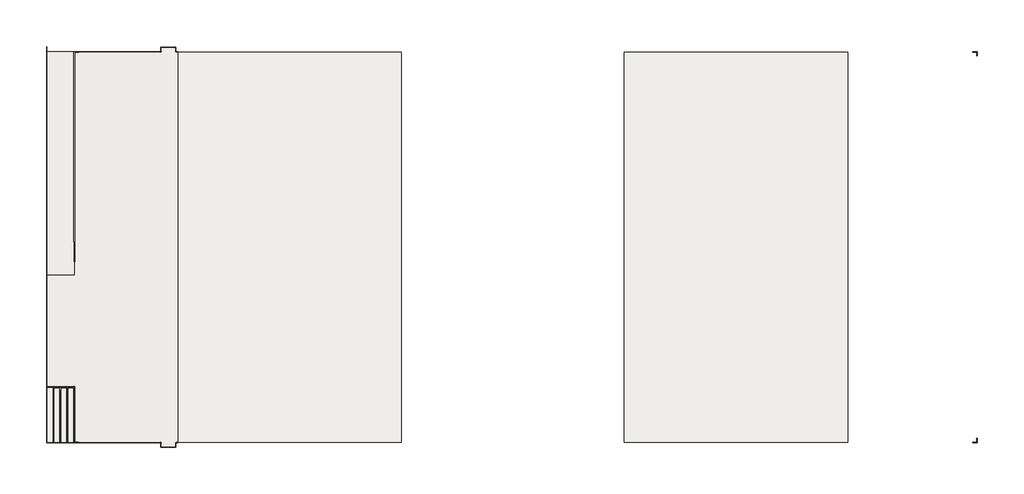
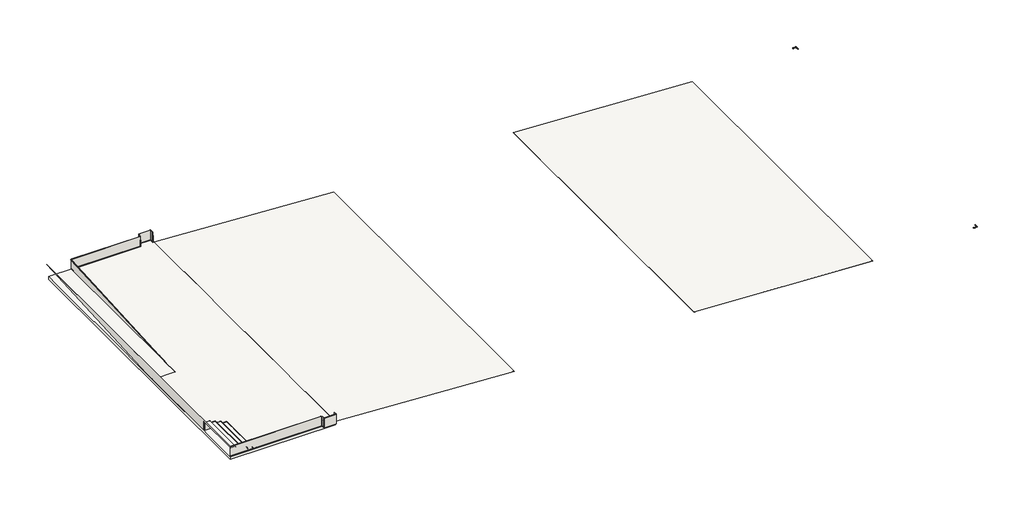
# One storey, incomplete: 41 slabs, 16 walls, 6 proxies.
"""IFC4 building model written with IfcOpenShell, lengths in millimetres."""

from ifc_helpers import new_model, si_unit, frame, origin, place, context, project, spatial, polyline, outline, extrude, faceted_brep, transform, mapped, element, save
from components import generic_models_2f38e3b8, pieza_116_aqua_blanco_liso_e3a47a5f, pieza_116_aqua_blanco_liso_e9a23e22, slab_34b9a9c7, slab_35f00dca, slab_c012ca34, slab_127b54b0, slab_4b7f66d5, slab_a917c221, slab_8c1f2233, slab_389d30d9, pieza_112_aqua_blanco_liso_81c370b3, pieza_112_aqua_blanco_liso_8ca1fe8c, pieza_112_aqua_blanco_liso_23b11aa6, pieza_112_aqua_blanco_liso_01280c05, pieza_112_aqua_blanco_liso_dc4f69db, pieza_112_aqua_blanco_liso_d6423cb9, pieza_112_aqua_blanco_liso_26c74400, pieza_138_aqua_blanco_liso_9b706f35, pieza_138_aqua_blanco_liso_c4eb7b49, pieza_138_aqua_blanco_liso_e20dc912

model = new_model("IFC4")

# Units and contexts
model_context = context("Model", 3, world=origin())
ifc_project = project(units=[si_unit("LENGTHUNIT", "METRE", prefix="MILLI")], contexts=[model_context])

# Site, building, storey
site = spatial("IfcSite", under=ifc_project)
building = spatial("IfcBuilding", under=site)
storey = spatial("IfcBuildingStorey", under=building, Name="3_NFondo1PN -0.75", Elevation=-750.0)

# Proxies
placement = place(None, origin())
generic_models_shape = generic_models_2f38e3b8(model_context)
element("IfcBuildingElementProxy", 1, Name="ROSA GRES_115 : Pieza 115_Aqua_Marino_Anti-Slip", ObjectType="ROSA GRES_115 : Pieza 115_Aqua_Marino_Anti-Slip", at=placement, inside=storey, context=model_context, shape_type="MappedRepresentation", body=[
    mapped(generic_models_shape, transform((-21818.2348833, 32923.3948726, -190.0), x_axis=(0.0, 1.0, 0.0), y_axis=(-1.0, 0.0, 0.0), z_axis=(0.0, 0.0, 1.0))),
])
pieza_116_aqua_blanco_liso_shape = pieza_116_aqua_blanco_liso_e3a47a5f(model_context)
element("IfcBuildingElementProxy", 2, Name="ROSA GRES_116 : Pieza 116_Aqua_Blanco_Liso", ObjectType="ROSA GRES_116 : Pieza 116_Aqua_Blanco_Liso", at=placement, inside=storey, context=model_context, shape_type="MappedRepresentation", body=[
    mapped(pieza_116_aqua_blanco_liso_shape, transform((-16057.0437174, 29923.3948726, -760.0), x_axis=(1.0, 0.0, 0.0), y_axis=(0.0, 1.0, 0.0), z_axis=(0.0, 0.0, 1.0))),
])
element("IfcBuildingElementProxy", 3, Name="ROSA GRES_116 : Pieza 116_Aqua_Blanco_Liso", ObjectType="ROSA GRES_116 : Pieza 116_Aqua_Blanco_Liso", at=placement, inside=storey, context=model_context, shape_type="MappedRepresentation", body=[
    mapped(pieza_116_aqua_blanco_liso_shape, transform((-15177.0968945, 29923.3948726, -760.0), x_axis=(0.0, 1.0, 0.0), y_axis=(-1.0, 0.0, 0.0), z_axis=(0.0, 0.0, 1.0))),
])
pieza_116_aqua_blanco_liso_2_shape = pieza_116_aqua_blanco_liso_e9a23e22(model_context)
element("IfcBuildingElementProxy", 4, Name="ROSA GRES_116 : Pieza 116_Aqua_Blanco_Liso", ObjectType="ROSA GRES_116 : Pieza 116_Aqua_Blanco_Liso", at=placement, inside=storey, context=model_context, shape_type="MappedRepresentation", body=[
    mapped(pieza_116_aqua_blanco_liso_2_shape, transform((-16057.0437174, 51003.3416955, -760.0), x_axis=(1.0, 0.0, 0.0), y_axis=(0.0, 1.0, 0.0), z_axis=(0.0, 0.0, 1.0))),
])
element("IfcBuildingElementProxy", 5, Name="ROSA GRES_116 : Pieza 116_Aqua_Blanco_Liso", ObjectType="ROSA GRES_116 : Pieza 116_Aqua_Blanco_Liso", at=placement, inside=storey, context=model_context, shape_type="MappedRepresentation", body=[
    mapped(pieza_116_aqua_blanco_liso_2_shape, transform((-15177.0968945, 51003.3416955, -760.0), x_axis=(0.0, -1.0, 0.0), y_axis=(1.0, 0.0, 0.0), z_axis=(0.0, 0.0, 1.0))),
])
element("IfcBuildingElementProxy", 6, Name="ROSA GRES_116 : Pieza 116_Aqua_Blanco_Liso", ObjectType="ROSA GRES_116 : Pieza 116_Aqua_Blanco_Liso", at=placement, inside=storey, context=model_context, shape_type="MappedRepresentation", body=[
    mapped(pieza_116_aqua_blanco_liso_2_shape, transform((-20693.2082947, 32923.3948726, -760.0), x_axis=(0.0, 1.0, 0.0), y_axis=(-1.0, 0.0, 0.0), z_axis=(0.0, 0.0, 1.0))),
])

# Slabs
element("IfcSlab", 7, ObjectType="GENÉRICO_LOSA 20 cm", at=placement, inside=storey, context=model_context, shape_type="SweptSolid", body=[
    extrude(outline(polyline([(-22162.2348833, 29954.368284), (-22162.2348833, 50972.368284), (-15117.0703062, 50972.368284), (-15117.0703062, 29954.368284), (-22162.2348833, 29954.368284)])), frame((0.0, 0.0, -960.0), z_axis=(0.0, 0.0, 1.0), x_axis=(1.0, 0.0, 0.0)), (0.0, 0.0, 1.0), 200.0),
])
element("IfcSlab", 8, ObjectType="Pieza 244 G1_Patrón Recto_Aqua_Blanco_Anti-Slip", at=placement, inside=storey, context=model_context, shape_type="SweptSolid", body=[
    extrude(outline(polyline([(-20693.2348833, 32923.3948726), (-20693.2348833, 29963.368284), (-20998.2348833, 29963.368284), (-20998.2348833, 32923.3948726), (-20693.2348833, 32923.3948726)])), frame((0.0, 0.0, -609.0), z_axis=(0.0, 0.0, 1.0), x_axis=(1.0, 0.0, 0.0)), (0.0, 0.0, 1.0), 9.0),
])
element("IfcSlab", 9, ObjectType="Pieza 244 G1_Patrón Recto_Aqua_Blanco_Anti-Slip", at=placement, inside=storey, context=model_context, shape_type="SweptSolid", body=[
    extrude(outline(polyline([(-21068.2348833, 32923.3948726), (-21068.2348833, 29963.368284), (-21373.2348833, 29963.368284), (-21373.2348833, 32923.3948726), (-21068.2348833, 32923.3948726)])), frame((0.0, 0.0, -459.0), z_axis=(0.0, 0.0, 1.0), x_axis=(1.0, 0.0, 0.0)), (0.0, 0.0, 1.0), 9.0),
])
element("IfcSlab", 10, ObjectType="Pieza 244 G1_Patrón Recto_Aqua_Blanco_Anti-Slip", at=placement, inside=storey, context=model_context, shape_type="SweptSolid", body=[
    extrude(outline(polyline([(-21443.2348833, 32923.3948726), (-21443.2348833, 29963.368284), (-21748.2348833, 29963.368284), (-21748.2348833, 32923.3948726), (-21443.2348833, 32923.3948726)])), frame((0.0, 0.0, -309.0), z_axis=(0.0, 0.0, 1.0), x_axis=(1.0, 0.0, 0.0)), (0.0, 0.0, 1.0), 9.0),
])
element("IfcSlab", 11, ObjectType="Pieza 244 G1_Patrón Recto_Aqua_Blanco_Anti-Slip", at=placement, inside=storey, context=model_context, shape_type="SweptSolid", body=[
    extrude(outline(polyline([(-21818.2348833, 32923.3948726), (-21818.2348833, 29963.368284), (-22123.2348833, 29963.368284), (-22123.2348833, 32923.3948726), (-21818.2348833, 32923.3948726)])), frame((0.0, 0.0, -159.0), z_axis=(0.0, 0.0, 1.0), x_axis=(1.0, 0.0, 0.0)), (0.0, 0.0, 1.0), 9.0),
])
element("IfcSlab", 12, ObjectType="Pieza 244 G1_Patrón Recto_Aqua_Blanco_Anti-Slip", at=placement, inside=storey, context=model_context, shape_type="SweptSolid", body=[
    extrude(outline(polyline([(-22123.2082947, 38963.368284), (-20653.2348833, 38963.368284), (-20653.2348833, 40201.8416955), (-20623.2082947, 40201.8416955), (-20623.2082947, 50933.3416955), (-15987.0437174, 50933.3416955), (-15987.0437174, 51177.1853154), (-15247.0968945, 51177.1853154), (-15247.0968945, 50933.3416955), (-15117.0703062, 50933.3416955), (-15117.0703062, 29993.3948726), (-15247.0968945, 29993.3948726), (-15247.0968945, 29749.5586456), (-15987.0437174, 29749.5586456), (-15987.0437174, 29993.3948726), (-20623.2082947, 29993.3948726), (-20623.2082947, 32993.3948726), (-22123.2082947, 32993.3948726), (-22123.2082947, 38963.368284)])), frame((0.0, 0.0, -759.0), z_axis=(0.0, 0.0, 1.0), x_axis=(1.0, 0.0, 0.0)), (0.0, 0.0, 1.0), 9.0),
])
element("IfcSlab", 13, ObjectType="Pieza 244 G1_Patrón Recto_Aqua_Blanco_Anti-Slip", at=placement, inside=storey, context=model_context, shape_type="SweptSolid", body=[
    extrude(outline(polyline([(-759.0131923, -15117.0703062), (-1409.0131923, -3116.5620418), (-1400.0, -3116.5620418), (-750.0, -15117.0703062), (-759.0131923, -15117.0703062)])), frame((0.0, 29993.3948726, 0.0), z_axis=(0.0, 1.0, 0.0), x_axis=(0.0, 0.0, 1.0)), (0.0, 0.0, 1.0), 20939.9468229),
])
element("IfcSlab", 14, ObjectType="Pieza 244 G1_Patrón Recto_Aqua_Blanco_Anti-Slip", at=placement, inside=storey, context=model_context, shape_type="SweptSolid", body=[
    extrude(outline(polyline([(-1409.011243, 8882.8865549), (-2009.011243, 20882.8636311), (-2000.0, 20882.8636311), (-1400.0, 8882.8865549), (-1409.011243, 8882.8865549)])), frame((0.0, 29993.3948726, 0.0), z_axis=(0.0, 1.0, 0.0), x_axis=(0.0, 0.0, 1.0)), (0.0, 0.0, 1.0), 20939.9468229),
])
slab_shape = slab_34b9a9c7(model_context)
element("IfcSlab", 15, ObjectType="ROSA GRES_138 : Pieza 138_Aqua_Marino_Anti-Slip", at=placement, inside=storey, context=model_context, shape_type="MappedRepresentation", body=[
    mapped(slab_shape, transform((-20693.2348833, 40762.0006856, -688.141668), x_axis=(0.0, 0.9983983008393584, 0.05657590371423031), y_axis=(-1.0, 0.0, 0.0), z_axis=(0.0, -0.056575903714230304, 0.9983983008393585))),
])
slab_2_shape = slab_35f00dca(model_context)
element("IfcSlab", 16, ObjectType="ROSA GRES_138 : Pieza 138_Aqua_Marino_Anti-Slip", at=placement, inside=storey, context=model_context, shape_type="MappedRepresentation", body=[
    mapped(slab_2_shape, transform((-21443.2348833, 32923.3948726, -340.0), x_axis=(-1.0, 0.0, 0.0), y_axis=(0.0, 0.0, 1.0), z_axis=(0.0, 1.0, 0.0))),
])
slab_3_shape = slab_c012ca34(model_context)
element("IfcSlab", 17, ObjectType="ROSA GRES_138 : Pieza 138_Aqua_Marino_Liso", at=placement, inside=storey, context=model_context, shape_type="MappedRepresentation", body=[
    mapped(slab_3_shape, transform((-20693.2348833, 32923.3948726, -720.0), x_axis=(0.0, 0.0, 1.0), y_axis=(0.0, -1.0, 0.0), z_axis=(1.0, 0.0, 0.0))),
])
element("IfcSlab", 18, ObjectType="ROSA GRES_138 : Pieza 138_Aqua_Marino_Liso", at=placement, inside=storey, context=model_context, shape_type="MappedRepresentation", body=[
    mapped(slab_3_shape, transform((-21068.2348833, 32923.3948726, -570.0), x_axis=(0.0, 0.0, 1.0), y_axis=(0.0, -1.0, 0.0), z_axis=(1.0, 0.0, 0.0))),
])
element("IfcSlab", 19, ObjectType="ROSA GRES_138 : Pieza 138_Aqua_Marino_Liso", at=placement, inside=storey, context=model_context, shape_type="MappedRepresentation", body=[
    mapped(slab_3_shape, transform((-21443.2348833, 32923.3948726, -420.0), x_axis=(0.0, 0.0, 1.0), y_axis=(0.0, -1.0, 0.0), z_axis=(1.0, 0.0, 0.0))),
])
element("IfcSlab", 20, ObjectType="ROSA GRES_138 : Pieza 138_Aqua_Marino_Liso", at=placement, inside=storey, context=model_context, shape_type="MappedRepresentation", body=[
    mapped(slab_3_shape, transform((-21818.2348833, 32923.3948726, -270.0), x_axis=(0.0, 0.0, 1.0), y_axis=(0.0, -1.0, 0.0), z_axis=(1.0, 0.0, 0.0))),
])
slab_4_shape = slab_127b54b0(model_context)
element("IfcSlab", 21, ObjectType="ROSA GRES_138 : Pieza 138_Aqua_Marino_Anti-Slip", at=placement, inside=storey, context=model_context, shape_type="MappedRepresentation", body=[
    mapped(slab_4_shape, transform((-20693.2348833, 32923.3948726, -640.0), x_axis=(-1.0, 0.0, 0.0), y_axis=(0.0, -1.0, 0.0), z_axis=(0.0, 0.0, 1.0))),
])
element("IfcSlab", 22, ObjectType="ROSA GRES_138 : Pieza 138_Aqua_Marino_Anti-Slip", at=placement, inside=storey, context=model_context, shape_type="MappedRepresentation", body=[
    mapped(slab_4_shape, transform((-21068.2348833, 32923.3948726, -490.0), x_axis=(-1.0, 0.0, 0.0), y_axis=(0.0, -1.0, 0.0), z_axis=(0.0, 0.0, 1.0))),
])
slab_5_shape = slab_4b7f66d5(model_context)
element("IfcSlab", 23, ObjectType="ROSA GRES_138 : Pieza 138_Aqua_Marino_Anti-Slip", at=placement, inside=storey, context=model_context, shape_type="MappedRepresentation", body=[
    mapped(slab_5_shape, transform((-20693.2348833, 32743.368284, -640.0), x_axis=(0.0, -1.0, 0.0), y_axis=(0.0, 0.0, -1.0), z_axis=(1.0, 0.0, 0.0))),
])
element("IfcSlab", 24, ObjectType="ROSA GRES_138 : Pieza 138_Aqua_Marino_Anti-Slip", at=placement, inside=storey, context=model_context, shape_type="MappedRepresentation", body=[
    mapped(slab_5_shape, transform((-21068.2348833, 32743.368284, -490.0), x_axis=(0.0, -1.0, 0.0), y_axis=(0.0, 0.0, -1.0), z_axis=(1.0, 0.0, 0.0))),
])
slab_6_shape = slab_a917c221(model_context)
element("IfcSlab", 25, ObjectType="ROSA GRES_138 : Pieza 138_Aqua_Marino_Anti-Slip", at=placement, inside=storey, context=model_context, shape_type="MappedRepresentation", body=[
    mapped(slab_6_shape, transform((-21443.2348833, 32743.3948726, -340.0), x_axis=(0.0, -1.0, 0.0), y_axis=(0.0, 0.0, -1.0), z_axis=(1.0, 0.0, 0.0))),
])
slab_7_shape = slab_8c1f2233(model_context)
element("IfcSlab", 26, ObjectType="ROSA GRES_138 : Pieza 138_Aqua_Marino_Anti-Slip", at=placement, inside=storey, context=model_context, shape_type="MappedRepresentation", body=[
    mapped(slab_7_shape, transform((-21068.2348833, 32743.368284, -490.0), x_axis=(0.0, 1.0, 0.0), y_axis=(-1.0, 0.0, 0.0), z_axis=(0.0, 0.0, 1.0))),
])
element("IfcSlab", 27, ObjectType="ROSA GRES_138 : Pieza 138_Aqua_Marino_Anti-Slip", at=placement, inside=storey, context=model_context, shape_type="MappedRepresentation", body=[
    mapped(slab_7_shape, transform((-20693.2348833, 32743.3948726, -640.0), x_axis=(0.0, 1.0, 0.0), y_axis=(-1.0, 0.0, 0.0), z_axis=(0.0, 0.0, 1.0))),
])
slab_8_shape = slab_389d30d9(model_context)
element("IfcSlab", 28, ObjectType="ROSA GRES_138 : Pieza 138_Aqua_Marino_Anti-Slip", at=placement, inside=storey, context=model_context, shape_type="MappedRepresentation", body=[
    mapped(slab_8_shape, transform((-21443.2348833, 32743.3948726, -340.0), x_axis=(0.0, 1.0, 0.0), y_axis=(0.0, 0.0, 1.0), z_axis=(1.0, 0.0, 0.0))),
])
pieza_112_aqua_blanco_liso_shape = pieza_112_aqua_blanco_liso_81c370b3(model_context)
element("IfcSlab", 29, ObjectType="ROSA GRES_112 (corte) : Pieza 112_Aqua_Blanco_Liso", at=placement, inside=storey, context=model_context, shape_type="MappedRepresentation", body=[
    mapped(pieza_112_aqua_blanco_liso_shape, transform((-20419.7082947, 50973.3416955, -760.0), x_axis=(-1.0, 0.0, 0.0), y_axis=(0.0, -1.0, 0.0), z_axis=(0.0, 0.0, 1.0))),
])
element("IfcSlab", 30, ObjectType="ROSA GRES_112 (corte) : Pieza 112_Aqua_Blanco_Liso", at=placement, inside=storey, context=model_context, shape_type="MappedRepresentation", body=[
    mapped(pieza_112_aqua_blanco_liso_shape, transform((-20663.2082947, 30196.8948726, -760.0), x_axis=(0.0, -1.0, 0.0), y_axis=(1.0, 0.0, 0.0), z_axis=(0.0, 0.0, 1.0))),
])
element("IfcSlab", 31, ObjectType="ROSA GRES_112 (corte) : Pieza 112_Aqua_Blanco_Liso", at=placement, inside=storey, context=model_context, shape_type="MappedRepresentation", body=[
    mapped(pieza_112_aqua_blanco_liso_shape, transform((27613.2385282, 29953.3948726, -2010.0), x_axis=(1.0, 0.0, 0.0), y_axis=(0.0, 1.0, 0.0), z_axis=(0.0, 0.0, 1.0))),
])
pieza_112_aqua_blanco_liso_2_shape = pieza_112_aqua_blanco_liso_8ca1fe8c(model_context)
element("IfcSlab", 32, ObjectType="ROSA GRES_112 (corte) : Pieza 112_Aqua_Blanco_Liso", at=placement, inside=storey, context=model_context, shape_type="MappedRepresentation", body=[
    mapped(pieza_112_aqua_blanco_liso_2_shape, transform((-20419.7082947, 29953.3948726, -760.0), x_axis=(-1.0, 0.0, 0.0), y_axis=(0.0, -1.0, 0.0), z_axis=(0.0, 0.0, 1.0))),
])
element("IfcSlab", 33, ObjectType="ROSA GRES_112 (corte) : Pieza 112_Aqua_Blanco_Liso", at=placement, inside=storey, context=model_context, shape_type="MappedRepresentation", body=[
    mapped(pieza_112_aqua_blanco_liso_2_shape, transform((27856.7385282, 30196.8948726, -2010.0), x_axis=(0.0, -1.0, 0.0), y_axis=(1.0, 0.0, 0.0), z_axis=(0.0, 0.0, 1.0))),
])
element("IfcSlab", 34, ObjectType="ROSA GRES_112 (corte) : Pieza 112_Aqua_Blanco_Liso", at=placement, inside=storey, context=model_context, shape_type="MappedRepresentation", body=[
    mapped(pieza_112_aqua_blanco_liso_2_shape, transform((27613.2385282, 50973.3416955, -2010.0), x_axis=(1.0, 0.0, 0.0), y_axis=(0.0, 1.0, 0.0), z_axis=(0.0, 0.0, 1.0))),
])
pieza_112_aqua_blanco_liso_3_shape = pieza_112_aqua_blanco_liso_23b11aa6(model_context)
element("IfcSlab", 35, ObjectType="ROSA GRES_112 (corte) : Pieza 112_Aqua_Blanco_Liso", at=placement, inside=storey, context=model_context, shape_type="MappedRepresentation", body=[
    mapped(pieza_112_aqua_blanco_liso_3_shape, transform((-20663.2082947, 50743.3948726, -760.0), x_axis=(0.0, 1.0, 0.0), y_axis=(-1.0, 0.0, 0.0), z_axis=(0.0, 0.0, 1.0))),
])
pieza_112_aqua_blanco_liso_4_shape = pieza_112_aqua_blanco_liso_01280c05(model_context)
element("IfcSlab", 36, ObjectType="ROSA GRES_112 (corte) : Pieza 112_Aqua_Blanco_Liso", at=placement, inside=storey, context=model_context, shape_type="MappedRepresentation", body=[
    mapped(pieza_112_aqua_blanco_liso_4_shape, transform((27856.7385282, 50743.3948726, -2010.0), x_axis=(0.0, 1.0, 0.0), y_axis=(-1.0, 0.0, 0.0), z_axis=(0.0, 0.0, 1.0))),
])
pieza_112_aqua_blanco_liso_5_shape = pieza_112_aqua_blanco_liso_dc4f69db(model_context)
element("IfcSlab", 37, ObjectType="ROSA GRES_112 : Pieza 112_Aqua_Blanco_Liso", at=placement, inside=storey, context=model_context, shape_type="MappedRepresentation", body=[
    mapped(pieza_112_aqua_blanco_liso_5_shape, transform((-21028.2614718, 32743.368284, -610.0), x_axis=(0.0, -1.0, 0.0), y_axis=(1.0, 0.0, 0.0), z_axis=(0.0, 0.0, 1.0))),
])
element("IfcSlab", 38, ObjectType="ROSA GRES_112 : Pieza 112_Aqua_Blanco_Liso", at=placement, inside=storey, context=model_context, shape_type="MappedRepresentation", body=[
    mapped(pieza_112_aqua_blanco_liso_5_shape, transform((-21403.2614718, 32743.368284, -460.0), x_axis=(0.0, -1.0, 0.0), y_axis=(1.0, 0.0, 0.0), z_axis=(0.0, 0.0, 1.0))),
])
element("IfcSlab", 39, ObjectType="ROSA GRES_112 : Pieza 112_Aqua_Blanco_Liso", at=placement, inside=storey, context=model_context, shape_type="MappedRepresentation", body=[
    mapped(pieza_112_aqua_blanco_liso_5_shape, transform((-21778.2614718, 32743.368284, -310.0), x_axis=(0.0, -1.0, 0.0), y_axis=(1.0, 0.0, 0.0), z_axis=(0.0, 0.0, 1.0))),
])
pieza_112_aqua_blanco_liso_6_shape = pieza_112_aqua_blanco_liso_d6423cb9(model_context)
element("IfcSlab", 40, ObjectType="ROSA GRES_112 : Pieza 112_Aqua_Blanco_Liso", at=placement, inside=storey, context=model_context, shape_type="MappedRepresentation", body=[
    mapped(pieza_112_aqua_blanco_liso_6_shape, transform((-22153.2614718, 32953.3948726, -720.0), x_axis=(0.0, 0.0, 1.0), y_axis=(1.0, 0.0, 0.0), z_axis=(0.0, 1.0, 0.0))),
])
pieza_112_aqua_blanco_liso_7_shape = pieza_112_aqua_blanco_liso_26c74400(model_context)
element("IfcSlab", 41, ObjectType="ROSA GRES_112 : Pieza 112_Aqua_Blanco_Liso", at=placement, inside=storey, context=model_context, shape_type="MappedRepresentation", body=[
    mapped(pieza_112_aqua_blanco_liso_7_shape, transform((-21778.2348833, 32923.3948726, -310.0), x_axis=(0.0, -1.0, 0.0), y_axis=(1.0, 0.0, 0.0), z_axis=(0.0, 0.0, 1.0))),
])
element("IfcSlab", 42, ObjectType="ROSA GRES_112 : Pieza 112_Aqua_Blanco_Liso", at=placement, inside=storey, context=model_context, shape_type="MappedRepresentation", body=[
    mapped(pieza_112_aqua_blanco_liso_7_shape, transform((-21403.2348833, 32923.3948726, -460.0), x_axis=(0.0, -1.0, 0.0), y_axis=(1.0, 0.0, 0.0), z_axis=(0.0, 0.0, 1.0))),
])
element("IfcSlab", 43, ObjectType="ROSA GRES_112 : Pieza 112_Aqua_Blanco_Liso", at=placement, inside=storey, context=model_context, shape_type="MappedRepresentation", body=[
    mapped(pieza_112_aqua_blanco_liso_7_shape, transform((-21028.2614718, 32923.368284, -610.0), x_axis=(0.0, -1.0, 0.0), y_axis=(1.0, 0.0, 0.0), z_axis=(0.0, 0.0, 1.0))),
])
pieza_138_aqua_blanco_liso_shape = pieza_138_aqua_blanco_liso_9b706f35(model_context)
element("IfcSlab", 44, ObjectType="ROSA GRES_138 : Pieza 138_Aqua_Blanco_Liso", at=placement, inside=storey, context=model_context, shape_type="MappedRepresentation", body=[
    mapped(pieza_138_aqua_blanco_liso_shape, transform((-16057.070306, 51003.368284, -304.0), x_axis=(0.0, 0.0, -1.0), y_axis=(0.0, 1.0, 0.0), z_axis=(1.0, 0.0, 0.0))),
])
element("IfcSlab", 45, ObjectType="ROSA GRES_138 : Pieza 138_Aqua_Blanco_Liso", at=placement, inside=storey, context=model_context, shape_type="MappedRepresentation", body=[
    mapped(pieza_138_aqua_blanco_liso_shape, transform((-15177.070306, 29923.368284, -304.0), x_axis=(0.0, 0.0, -1.0), y_axis=(0.0, -1.0, 0.0), z_axis=(-1.0, 0.0, 0.0))),
])
pieza_138_aqua_blanco_liso_2_shape = pieza_138_aqua_blanco_liso_c4eb7b49(model_context)
element("IfcSlab", 46, ObjectType="ROSA GRES_138 : Pieza 138_Aqua_Blanco_Liso", at=placement, inside=storey, context=model_context, shape_type="MappedRepresentation", body=[
    mapped(pieza_138_aqua_blanco_liso_2_shape, transform((-15177.070306, 51003.368284, -303.6037579), x_axis=(0.0, 0.0, -1.0), y_axis=(0.0, -1.0, 0.0), z_axis=(-1.0, 0.0, 0.0))),
])
pieza_138_aqua_blanco_liso_3_shape = pieza_138_aqua_blanco_liso_e20dc912(model_context)
element("IfcSlab", 47, ObjectType="ROSA GRES_138 : Pieza 138_Aqua_Blanco_Liso", at=placement, inside=storey, context=model_context, shape_type="MappedRepresentation", body=[
    mapped(pieza_138_aqua_blanco_liso_3_shape, transform((-16057.1799991, 29923.368284, -304.2531946), x_axis=(0.0, 0.0, -1.0), y_axis=(-1.0, 0.0, 0.0), z_axis=(0.0, 1.0, 0.0))),
])

# Walls
element("IfcWall", 48, ObjectType="Pieza 244 G1_Patrón Recto_Aqua_Blanco_Liso", at=placement, inside=storey, context=model_context, shape_type="SweptSolid", body=[
    extrude(outline(polyline([(-16057.1799991, 50963.368284), (-20653.2348833, 50963.368284), (-20653.2348833, 50972.368284), (-16057.1799991, 50972.368284), (-16057.1799991, 50963.368284)])), frame((0.0, 0.0, -720.0), z_axis=(0.0, 0.0, 1.0), x_axis=(1.0, 0.0, 0.0)), (0.0, 0.0, 1.0), 666.0),
])
element("IfcWall", 49, ObjectType="Pieza 244 G1_Patrón Recto_Aqua_Blanco_Liso", at=placement, inside=storey, context=model_context, shape_type="SweptSolid", body=[
    extrude(outline(polyline([(32993.3948726, -720.0), (32993.3948726, -120.0), (29963.368284, -120.0), (29963.368284, -54.0), (51245.7212252, -54.0), (38963.3948726, -749.9984933), (38963.3948726, -720.0), (32993.3948726, -720.0)])), frame((-22162.2348833, 0.0, 0.0), z_axis=(1.0, 0.0, 0.0), x_axis=(0.0, 1.0, 0.0)), (0.0, 0.0, 1.0), 9.0),
])
element("IfcWall", 50, ObjectType="Pieza 244 G1_Patrón Recto_Aqua_Blanco_Liso", at=placement, inside=storey, context=model_context, shape_type="Brep", body=[
    faceted_brep([(-16017.070306, 51207.211904, -720.0), (-15217.070306, 51207.211904, -720.0), (-15217.070306, 51207.211904, -36.8), (-16017.070306, 51207.211904, -36.8), (-16017.070306, 51216.211904, -720.0), (-16017.070306, 51216.211904, -36.8), (-15217.070306, 51216.211904, -36.8), (-15217.070306, 51216.211904, -720.0), (-16017.070306, 51211.711904, -720.0), (-15217.070306, 51211.711904, -720.0)], [[[0, 1, 2, 3]], [[4, 5, 6, 7]], [[1, 0, 8, 4, 7, 9]], [[3, 2, 6, 5]], [[0, 3, 5, 4, 8]], [[2, 1, 9, 7, 6]]]),
])
element("IfcWall", 51, ObjectType="Pieza 244 G1_Patrón Recto_Aqua_Blanco_Liso", at=placement, inside=storey, context=model_context, shape_type="Brep", body=[
    faceted_brep([(-16026.070306, 51211.711904, -720.0), (-16026.070306, 51003.368284, -720.0), (-16026.070306, 51003.368284, -54.1559994), (-16026.070306, 51211.711904, -37.1977978), (-16017.070306, 51211.711904, -720.0), (-16017.070306, 51211.711904, -37.1977978), (-16017.070306, 51003.368284, -54.1559994), (-16017.070306, 51003.368284, -720.0), (-16017.070306, 51207.211904, -720.0)], [[[0, 1, 2, 3]], [[4, 5, 6, 7, 8]], [[1, 0, 4, 8, 7]], [[2, 1, 7, 6]], [[0, 3, 5, 4]], [[3, 2, 6, 5]]]),
])
element("IfcWall", 52, ObjectType="Pieza 244 G1_Patrón Recto_Aqua_Blanco_Liso", at=placement, inside=storey, context=model_context, shape_type="Brep", body=[
    faceted_brep([(-15217.070306, 51211.711904, -720.0), (-15217.070306, 51207.211904, -720.0), (-15217.070306, 51003.368284, -720.0), (-15217.070306, 51003.368284, -54.1559994), (-15217.070306, 51211.711904, -37.1977978), (-15208.070306, 51211.711904, -720.0), (-15208.070306, 51211.711904, -37.1977978), (-15208.070306, 51003.368284, -54.1559994), (-15208.070306, 51003.368284, -720.0)], [[[0, 1, 2, 3, 4]], [[5, 6, 7, 8]], [[2, 1, 0, 5, 8]], [[3, 2, 8, 7]], [[0, 4, 6, 5]], [[4, 3, 7, 6]]]),
])
element("IfcWall", 53, ObjectType="Pieza 244 G1_Patrón Recto_Aqua_Blanco_Liso", at=placement, inside=storey, context=model_context, shape_type="SweptSolid", body=[
    extrude(outline(polyline([(50963.368284, -720.0), (40199.7948267, -720.0), (50963.368284, -110.0641707), (50963.368284, -720.0)])), frame((-20662.2348833, 0.0, 0.0), z_axis=(1.0, 0.0, 0.0), x_axis=(0.0, 1.0, 0.0)), (0.0, 0.0, 1.0), 9.0),
])
element("IfcWall", 54, ObjectType="Pieza 244 G1_Patrón Recto_Aqua_Blanco_Liso", at=placement, inside=storey, context=model_context, shape_type="SweptSolid", body=[
    extrude(outline(polyline([(-720.0, -22123.2348833), (-720.0, -20693.2082947), (-640.0, -20693.2082947), (-640.0, -21068.2348833), (-490.0, -21068.2348833), (-490.0, -21443.2348833), (-340.0, -21443.2348833), (-340.0, -21818.2348833), (-190.0, -21818.2348833), (-190.0, -22123.2348833), (-720.0, -22123.2348833)])), frame((0.0, 32954.368284, 0.0), z_axis=(0.0, 1.0, 0.0), x_axis=(0.0, 0.0, 1.0)), (0.0, 0.0, 1.0), 9.0),
])
element("IfcWall", 55, ObjectType="Pieza 244 G1_Patrón Recto_Aqua_Blanco_Liso", at=placement, inside=storey, context=model_context, shape_type="SweptSolid", body=[
    extrude(outline(polyline([(-21787.2348833, 29963.368284), (-21787.2348833, 32923.3948726), (-21778.2348833, 32923.3948726), (-21778.2348833, 29963.368284), (-21787.2348833, 29963.368284)])), frame((0.0, 0.0, -270.0), z_axis=(0.0, 0.0, 1.0), x_axis=(1.0, 0.0, 0.0)), (0.0, 0.0, 1.0), 80.0),
])
element("IfcWall", 56, ObjectType="Pieza 244 G1_Patrón Recto_Aqua_Blanco_Liso", at=placement, inside=storey, context=model_context, shape_type="SweptSolid", body=[
    extrude(outline(polyline([(-21412.2348833, 29963.368284), (-21412.2348833, 32923.3948726), (-21403.2348833, 32923.3948726), (-21403.2348833, 29963.368284), (-21412.2348833, 29963.368284)])), frame((0.0, 0.0, -420.0), z_axis=(0.0, 0.0, 1.0), x_axis=(1.0, 0.0, 0.0)), (0.0, 0.0, 1.0), 80.0),
])
element("IfcWall", 57, ObjectType="Pieza 244 G1_Patrón Recto_Aqua_Blanco_Liso", at=placement, inside=storey, context=model_context, shape_type="SweptSolid", body=[
    extrude(outline(polyline([(-21037.2348833, 29963.368284), (-21037.2348833, 32923.3948726), (-21028.2348833, 32923.3948726), (-21028.2348833, 29963.368284), (-21037.2348833, 29963.368284)])), frame((0.0, 0.0, -570.0), z_axis=(0.0, 0.0, 1.0), x_axis=(1.0, 0.0, 0.0)), (0.0, 0.0, 1.0), 80.0),
])
element("IfcWall", 58, ObjectType="Pieza 244 G1_Patrón Recto_Aqua_Blanco_Liso", at=placement, inside=storey, context=model_context, shape_type="SweptSolid", body=[
    extrude(outline(polyline([(-20662.2348833, 29963.368284), (-20662.2348833, 32923.3948726), (-20653.2348833, 32923.3948726), (-20653.2348833, 29963.368284), (-20662.2348833, 29963.368284)])), frame((0.0, 0.0, -720.0), z_axis=(0.0, 0.0, 1.0), x_axis=(1.0, 0.0, 0.0)), (0.0, 0.0, 1.0), 80.0),
])
element("IfcWall", 59, ObjectType="Pieza 244 G1_Patrón Recto_Aqua_Blanco_Liso", at=placement, inside=storey, context=model_context, shape_type="SweptSolid", body=[
    extrude(outline(polyline([(-16057.1799991, 29954.368284), (-22153.2348833, 29954.368284), (-22153.2348833, 29963.368284), (-16057.1799991, 29963.368284), (-16057.1799991, 29954.368284)])), frame((0.0, 0.0, -720.0), z_axis=(0.0, 0.0, 1.0), x_axis=(1.0, 0.0, 0.0)), (0.0, 0.0, 1.0), 666.0),
])
element("IfcWall", 60, ObjectType="Pieza 244 G1_Patrón Recto_Aqua_Blanco_Liso", at=placement, inside=storey, context=model_context, shape_type="SweptSolid", body=[
    extrude(outline(polyline([(40201.8416955, -750.0), (39670.383062, -750.0), (40201.8416955, -719.8840108), (40201.8416955, -750.0)])), frame((-20662.2348833, 0.0, 0.0), z_axis=(1.0, 0.0, 0.0), x_axis=(0.0, 1.0, 0.0)), (0.0, 0.0, 1.0), 9.0),
])
element("IfcWall", 61, ObjectType="Pieza 244 G1_Patrón Recto_Aqua_Blanco_Liso", at=placement, inside=storey, context=model_context, shape_type="SweptSolid", body=[
    extrude(outline(polyline([(-15217.070306, 29710.5320571), (-16017.070306, 29710.5320571), (-16017.070306, 29719.5320571), (-15217.070306, 29719.5320571), (-15217.070306, 29710.5320571)])), frame((0.0, 0.0, -720.0), z_axis=(0.0, 0.0, 1.0), x_axis=(1.0, 0.0, 0.0)), (0.0, 0.0, 1.0), 683.2),
])
element("IfcWall", 62, ObjectType="Pieza 244 G1_Patrón Recto_Aqua_Blanco_Liso", at=placement, inside=storey, context=model_context, shape_type="SweptSolid", body=[
    extrude(outline(polyline([(29719.5320571, -720.0), (29719.5320571, -37.5646786), (29923.368284, -54.1559994), (29923.368284, -720.0), (29719.5320571, -720.0)])), frame((-16026.070306, 0.0, 0.0), z_axis=(1.0, 0.0, 0.0), x_axis=(0.0, 1.0, 0.0)), (0.0, 0.0, 1.0), 9.0),
])
element("IfcWall", 63, ObjectType="Pieza 244 G1_Patrón Recto_Aqua_Blanco_Liso", at=placement, inside=storey, context=model_context, shape_type="SweptSolid", body=[
    extrude(outline(polyline([(29719.5320571, -720.0), (29719.5320571, -37.5646786), (29923.368284, -54.1559994), (29923.368284, -720.0), (29719.5320571, -720.0)])), frame((-15217.070306, 0.0, 0.0), z_axis=(1.0, 0.0, 0.0), x_axis=(0.0, 1.0, 0.0)), (0.0, 0.0, 1.0), 9.0),
])

save(model, "model.ifc")
